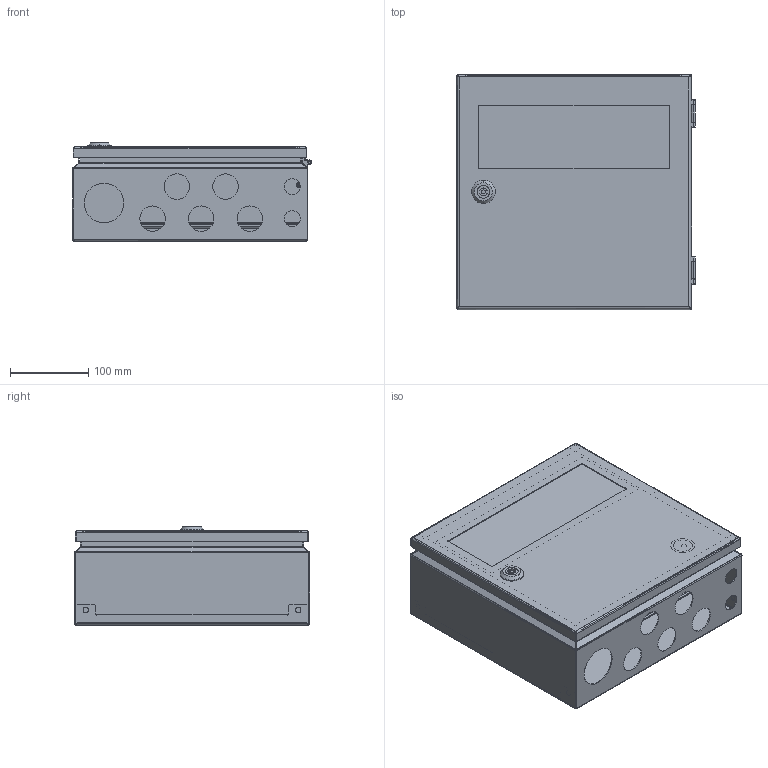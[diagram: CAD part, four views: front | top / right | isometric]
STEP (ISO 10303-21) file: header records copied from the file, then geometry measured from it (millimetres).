
FILE_DESCRIPTION (( 'STEP AP214' ), '1' );
FILE_NAME ('CCV 30.30.12-KV Ñèãíàëüíûé øêàô÷èê.STEP', '2023-04-11T10:08:57', ( '' ), ( '' ), 'SwSTEP 2.0', 'SolidWorks 2019', '' );
FILE_SCHEMA (( 'AUTOMOTIVE_DESIGN' ));
Length unit declared in the file: millimetre
Products named in the file (1): CCV 30.30.12-KV Ñèãíàëüíûé øêàô÷èê
Bounding box: 304.51 x 300 x 125.19 mm (x, y, z)
Volume: 718514 mm3; surface area: 883061.8 mm2
Topology: 26 solids, 26 shells, 1634 faces, 4281 edges, 2647 vertices
Faces by surface type: plane 738, cylinder 607, bspline 170, cone 92, torus 27
Entity records: 85480 total; most frequent: CARTESIAN_POINT 28286, ORIENTED_EDGE 8458, DIRECTION 7650, EDGE_CURVE 4229, AXIS2_PLACEMENT_3D 2664, VERTEX_POINT 2647, LINE 2322, VECTOR 2322
